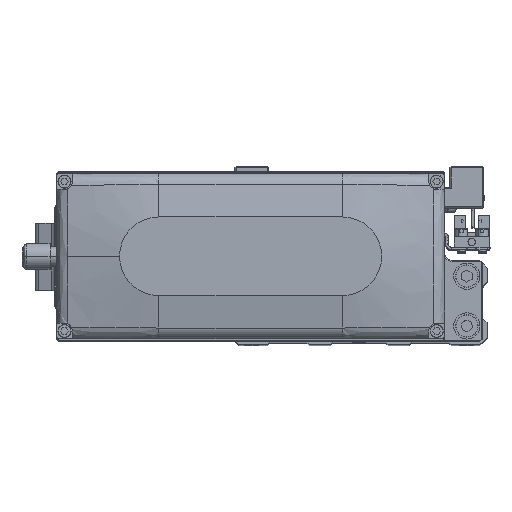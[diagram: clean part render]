
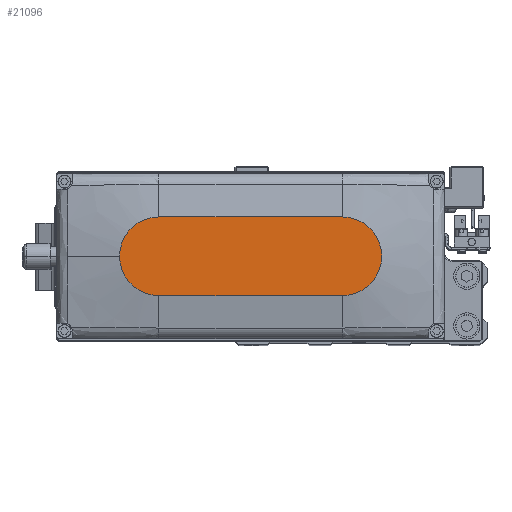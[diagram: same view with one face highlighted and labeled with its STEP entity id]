
A CAD part, top view. The second image highlights one B-rep face of the part: STEP entity #21096.
In plain terms, the highlighted planar face has unit normal (0, 0, 1).
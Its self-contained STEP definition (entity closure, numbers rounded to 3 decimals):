
#1290 = EDGE_CURVE ( 'NONE', #16997, #13243, #38413, .T. ) ;
#3372 = VERTEX_POINT ( 'NONE', #28427 ) ;
#3889 = AXIS2_PLACEMENT_3D ( 'NONE', #19705, #31930, #4506 ) ;
#4230 = ORIENTED_EDGE ( 'NONE', *, *, #1290, .T. ) ;
#4506 = DIRECTION ( 'NONE',  ( 1., 0., 0. ) ) ;
#4556 = EDGE_CURVE ( 'NONE', #13243, #35279, #8875, .T. ) ;
#5149 = DIRECTION ( 'NONE',  ( 1., 0., 0. ) ) ;
#7485 = PLANE ( 'NONE',  #3889 ) ;
#8875 = LINE ( 'NONE', #21092, #30837 ) ;
#9060 = CARTESIAN_POINT ( 'NONE',  ( -35., -15., 35. ) ) ;
#9405 = CARTESIAN_POINT ( 'NONE',  ( 35., 0., 35. ) ) ;
#11302 = CARTESIAN_POINT ( 'NONE',  ( 35., 0., 35. ) ) ;
#11334 = CIRCLE ( 'NONE', #33738, 15. ) ;
#12079 = ORIENTED_EDGE ( 'NONE', *, *, #39198, .T. ) ;
#13243 = VERTEX_POINT ( 'NONE', #30124 ) ;
#14293 = ORIENTED_EDGE ( 'NONE', *, *, #30423, .T. ) ;
#15038 = ORIENTED_EDGE ( 'NONE', *, *, #29554, .T. ) ;
#15126 = AXIS2_PLACEMENT_3D ( 'NONE', #20351, #32582, #5149 ) ;
#16997 = VERTEX_POINT ( 'NONE', #38959 ) ;
#19705 = CARTESIAN_POINT ( 'NONE',  ( 0., 0., 35. ) ) ;
#20348 = VECTOR ( 'NONE', #21284, 1000. ) ;
#20351 = CARTESIAN_POINT ( 'NONE',  ( -35., 0., 35. ) ) ;
#21092 = CARTESIAN_POINT ( 'NONE',  ( -35., 15., 35. ) ) ;
#21096 = ADVANCED_FACE ( 'NONE', ( #34936 ), #7485, .T. ) ;
#21128 = AXIS2_PLACEMENT_3D ( 'NONE', #11302, #23533, #35755 ) ;
#21284 = DIRECTION ( 'NONE',  ( 1., 0., 0. ) ) ;
#21624 = DIRECTION ( 'NONE',  ( 0., 0., 1. ) ) ;
#23533 = DIRECTION ( 'NONE',  ( 0., 0., 1. ) ) ;
#26454 = EDGE_LOOP ( 'NONE', ( #33717, #12079, #14293, #15038, #4230 ) ) ;
#28427 = CARTESIAN_POINT ( 'NONE',  ( 35., -15., 35. ) ) ;
#29554 = EDGE_CURVE ( 'NONE', #3372, #16997, #11334, .T. ) ;
#30124 = CARTESIAN_POINT ( 'NONE',  ( 35., 15., 35. ) ) ;
#30423 = EDGE_CURVE ( 'NONE', #36698, #3372, #36504, .T. ) ;
#30837 = VECTOR ( 'NONE', #33315, 1000. ) ;
#30839 = CARTESIAN_POINT ( 'NONE',  ( -35., 15., 35. ) ) ;
#31930 = DIRECTION ( 'NONE',  ( 0., 0., 1. ) ) ;
#32410 = CIRCLE ( 'NONE', #15126, 15. ) ;
#32582 = DIRECTION ( 'NONE',  ( 0., 0., 1. ) ) ;
#33315 = DIRECTION ( 'NONE',  ( -1., 0., 0. ) ) ;
#33717 = ORIENTED_EDGE ( 'NONE', *, *, #4556, .T. ) ;
#33738 = AXIS2_PLACEMENT_3D ( 'NONE', #9405, #21624, #33845 ) ;
#33845 = DIRECTION ( 'NONE',  ( 1., 0., 0. ) ) ;
#34893 = CARTESIAN_POINT ( 'NONE',  ( -35., -15., 35. ) ) ;
#34936 = FACE_OUTER_BOUND ( 'NONE', #26454, .T. ) ;
#35279 = VERTEX_POINT ( 'NONE', #30839 ) ;
#35755 = DIRECTION ( 'NONE',  ( 1., 0., 0. ) ) ;
#36504 = LINE ( 'NONE', #9060, #20348 ) ;
#36698 = VERTEX_POINT ( 'NONE', #34893 ) ;
#38413 = CIRCLE ( 'NONE', #21128, 15. ) ;
#38959 = CARTESIAN_POINT ( 'NONE',  ( 50., 0., 35. ) ) ;
#39198 = EDGE_CURVE ( 'NONE', #35279, #36698, #32410, .T. ) ;
